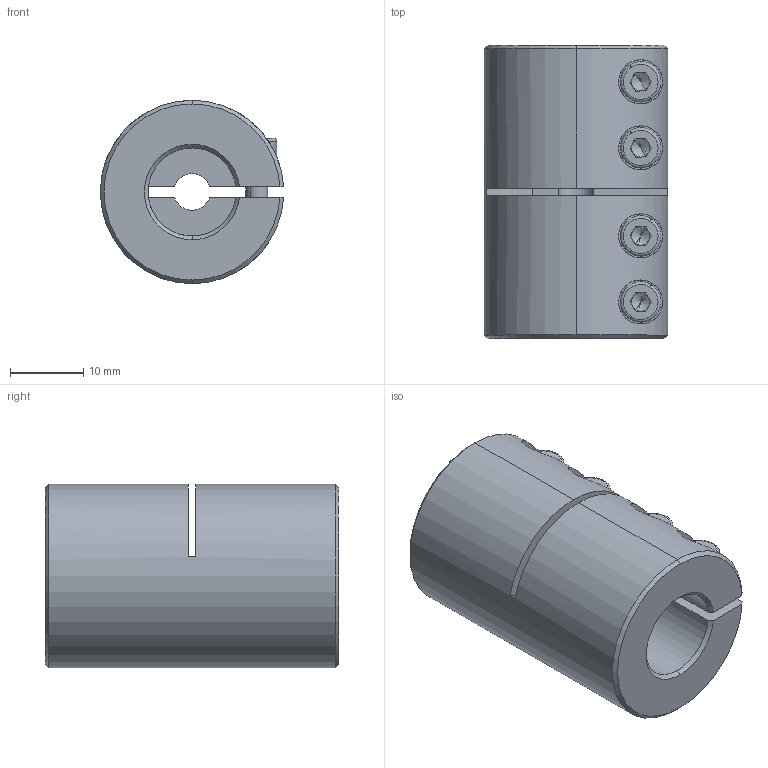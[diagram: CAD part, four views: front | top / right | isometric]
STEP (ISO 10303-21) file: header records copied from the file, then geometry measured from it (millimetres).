
FILE_DESCRIPTION (( 'STEP AP214' ), '1' );
FILE_NAME ('LL-B-D25L40-5-12½¨Ä£.STEP', '2022-07-21T05:06:22', ( '' ), ( '' ), 'SwSTEP 2.0', 'SolidWorks 2022', '' );
FILE_SCHEMA (( 'AUTOMOTIVE_DESIGN' ));
Length unit declared in the file: millimetre
Products named in the file (1): LL-B-D25L40-5-12膘耀
Bounding box: 24.98 x 40 x 25 mm (x, y, z)
Volume: 15988.5 mm3; surface area: 7190.4 mm2
Topology: 1 solids, 1 shells, 178 faces, 454 edges, 286 vertices
Faces by surface type: plane 85, cylinder 65, cone 20, torus 8
Entity records: 5830 total; most frequent: CARTESIAN_POINT 1438, DIRECTION 944, ORIENTED_EDGE 892, EDGE_CURVE 446, AXIS2_PLACEMENT_3D 364, VERTEX_POINT 286, VECTOR 216, LINE 216
